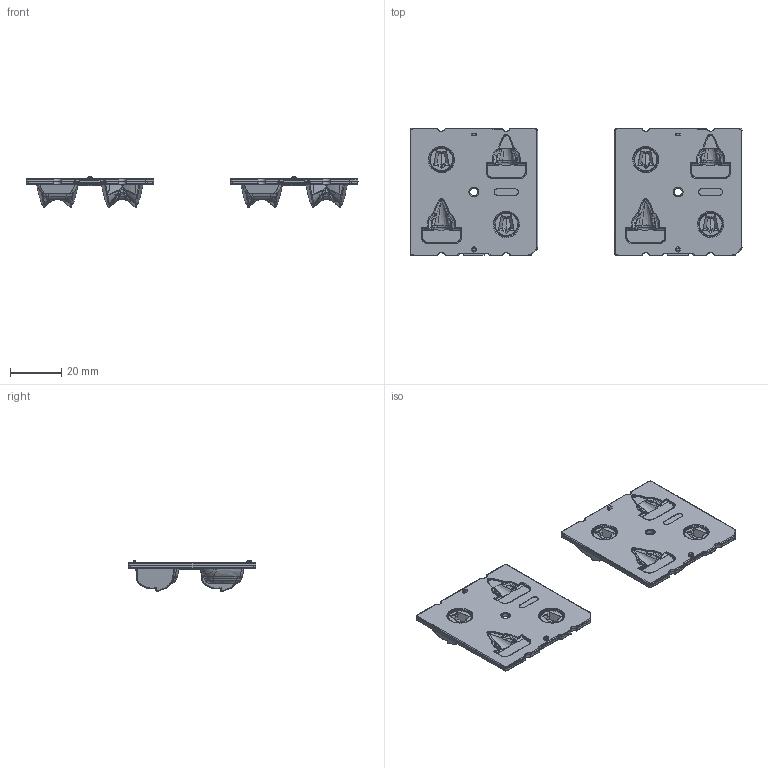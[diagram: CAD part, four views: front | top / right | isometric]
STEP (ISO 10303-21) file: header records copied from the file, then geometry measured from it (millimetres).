
FILE_DESCRIPTION(/* description */ (''),/* implementation_level */ '2;1');
FILE_NAME(/* name */ 'MODULO_PLUSME_LENTI',/* time_stamp */ '2012-08-30T10:16:58+02:00',/* author */ (''),/* organization */ (''),/* preprocessor_version */ 'ST-DEVELOPER v10',/* originating_system */ '',/* authorisation */ '');
FILE_SCHEMA (('CONFIG_CONTROL_DESIGN'));
Products named in the file (1): 1
Bounding box: 130 x 50 x 12.32 mm (x, y, z)
Surface area: 13253.8 mm2 (no closed solid volume)
Topology: 0 solids, 1714 shells, 1714 faces, 5344 edges, 5158 vertices
Faces by surface type: bspline 1434, plane 280
Entity records: 136850 total; most frequent: CARTESIAN_POINT 107308, ORIENTED_EDGE 5160, EDGE_CURVE 5160, VERTEX_POINT 5160, B_SPLINE_CURVE_WITH_KNOTS 3508, EDGE_LOOP 1782, SHELL_BASED_SURFACE_MODEL 1714, OPEN_SHELL 1714
